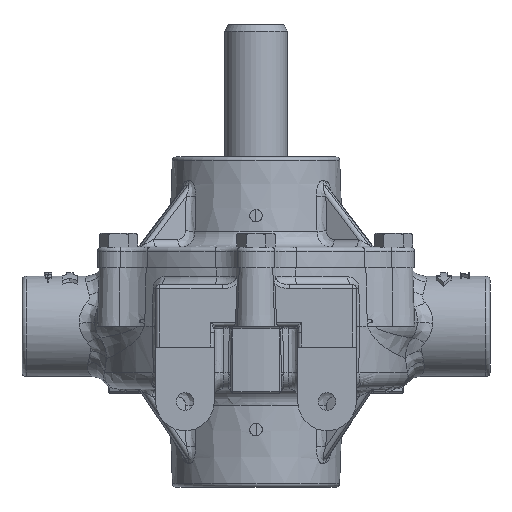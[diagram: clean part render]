
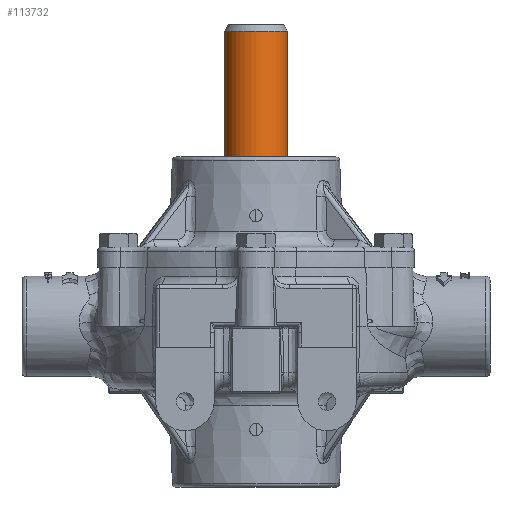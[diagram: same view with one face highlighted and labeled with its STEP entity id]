
A CAD part, front view. The second image highlights one B-rep face of the part: STEP entity #113732.
In plain terms, the highlighted cylindrical face has radius 11.9 mm (diameter 23.8 mm), a partial arc.
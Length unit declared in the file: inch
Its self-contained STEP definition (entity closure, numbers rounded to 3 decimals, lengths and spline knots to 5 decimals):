
#4999 = AXIS2_PLACEMENT_3D ( 'NONE', #98938, #98940, #98942 ) ;
#10220 = CARTESIAN_POINT ( 'NONE',  ( 0., 0.157, 1.53451 ) ) ;
#10222 = DIRECTION ( 'NONE',  ( 0., 0., -1. ) ) ;
#10224 = DIRECTION ( 'NONE',  ( -1., 0., 0. ) ) ;
#30537 = EDGE_CURVE ( 'NONE', #88672, #88768, #46544, .T. ) ;
#30680 = EDGE_CURVE ( 'NONE', #88768, #89066, #46612, .T. ) ;
#30726 = EDGE_CURVE ( 'NONE', #88672, #89081, #46643, .T. ) ;
#43461 = ORIENTED_EDGE ( 'NONE', *, *, #30726, .F. ) ;
#43462 = ORIENTED_EDGE ( 'NONE', *, *, #30537, .T. ) ;
#43463 = ORIENTED_EDGE ( 'NONE', *, *, #30680, .T. ) ;
#43464 = ORIENTED_EDGE ( 'NONE', *, *, #57202, .F. ) ;
#44061 = FACE_OUTER_BOUND ( 'NONE', #125266, .T. ) ;
#44067 = CYLINDRICAL_SURFACE ( 'NONE', #102339, 0.4685 ) ;
#46544 = CIRCLE ( 'NONE', #4999, 0.4685 ) ;
#46612 = LINE ( 'NONE', #99618, #46616 ) ;
#46616 = VECTOR ( 'NONE', #99610, 39.37008 ) ;
#46643 = LINE ( 'NONE', #99785, #46644 ) ;
#46644 = VECTOR ( 'NONE', #99788, 39.37008 ) ;
#52764 = AXIS2_PLACEMENT_3D ( 'NONE', #10220, #10222, #10224 ) ;
#57202 = EDGE_CURVE ( 'NONE', #89081, #89066, #129208, .T. ) ;
#88672 = VERTEX_POINT ( 'NONE', #109775 ) ;
#88768 = VERTEX_POINT ( 'NONE', #109862 ) ;
#89066 = VERTEX_POINT ( 'NONE', #110147 ) ;
#89081 = VERTEX_POINT ( 'NONE', #110161 ) ;
#98524 = DIRECTION ( 'NONE',  ( -1., 0., 0. ) ) ;
#98535 = DIRECTION ( 'NONE',  ( 0., 0., -1. ) ) ;
#98538 = CARTESIAN_POINT ( 'NONE',  ( 0., 0.157, -2.991 ) ) ;
#98938 = CARTESIAN_POINT ( 'NONE',  ( 0., 0.157, 3.54025 ) ) ;
#98940 = DIRECTION ( 'NONE',  ( 0., 0., -1. ) ) ;
#98942 = DIRECTION ( 'NONE',  ( -1., 0., 0. ) ) ;
#99610 = DIRECTION ( 'NONE',  ( 0., 0., -1. ) ) ;
#99618 = CARTESIAN_POINT ( 'NONE',  ( -0.4685, 0.157, -2.991 ) ) ;
#99785 = CARTESIAN_POINT ( 'NONE',  ( 0.4685, 0.157, -2.991 ) ) ;
#99788 = DIRECTION ( 'NONE',  ( 0., 0., -1. ) ) ;
#102339 = AXIS2_PLACEMENT_3D ( 'NONE', #98538, #98535, #98524 ) ;
#109775 = CARTESIAN_POINT ( 'NONE',  ( 0.4685, 0.157, 3.54025 ) ) ;
#109862 = CARTESIAN_POINT ( 'NONE',  ( -0.4685, 0.157, 3.54025 ) ) ;
#110147 = CARTESIAN_POINT ( 'NONE',  ( -0.4685, 0.157, 1.53451 ) ) ;
#110161 = CARTESIAN_POINT ( 'NONE',  ( 0.4685, 0.157, 1.53451 ) ) ;
#113732 = ADVANCED_FACE ( 'NONE', ( #44061 ), #44067, .T. ) ;
#125266 = EDGE_LOOP ( 'NONE', ( #43461, #43462, #43463, #43464 ) ) ;
#129208 = CIRCLE ( 'NONE', #52764, 0.4685 ) ;
